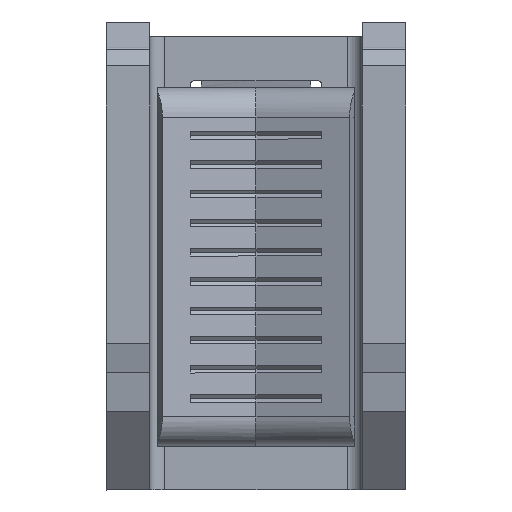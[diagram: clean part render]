
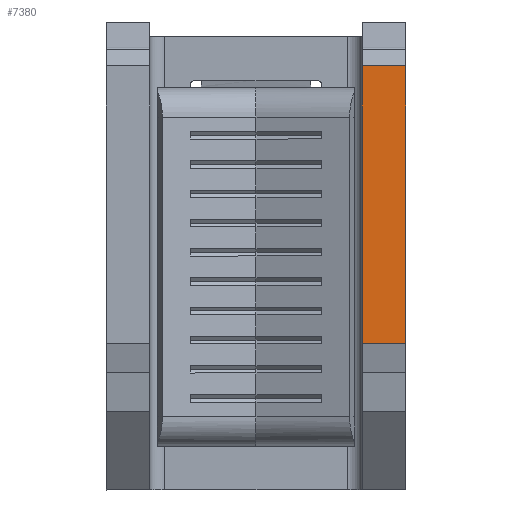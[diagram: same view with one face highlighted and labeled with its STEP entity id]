
A CAD part, front view. The second image highlights one B-rep face of the part: STEP entity #7380.
In plain terms, the highlighted planar face has unit normal (0, -1, 0).
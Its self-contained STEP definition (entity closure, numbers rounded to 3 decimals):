
#138 = VERTEX_POINT ( 'NONE', #9301 ) ;
#388 = LINE ( 'NONE', #4895, #12455 ) ;
#768 = VERTEX_POINT ( 'NONE', #1489 ) ;
#1301 = VERTEX_POINT ( 'NONE', #2354 ) ;
#1365 = VERTEX_POINT ( 'NONE', #4451 ) ;
#1489 = CARTESIAN_POINT ( 'NONE',  ( 10.898, 11.213, 18. ) ) ;
#1803 = AXIS2_PLACEMENT_3D ( 'NONE', #4732, #2538, #13019 ) ;
#2354 = CARTESIAN_POINT ( 'NONE',  ( 7.898, 11.213, -1. ) ) ;
#2538 = DIRECTION ( 'NONE',  ( 0., -1., 0. ) ) ;
#2755 = EDGE_LOOP ( 'NONE', ( #3962, #3828, #6048, #12012 ) ) ;
#2946 = LINE ( 'NONE', #12917, #9811 ) ;
#3275 = CARTESIAN_POINT ( 'NONE',  ( 7.898, 11.213, 21. ) ) ;
#3828 = ORIENTED_EDGE ( 'NONE', *, *, #8314, .T. ) ;
#3962 = ORIENTED_EDGE ( 'NONE', *, *, #12211, .T. ) ;
#4451 = CARTESIAN_POINT ( 'NONE',  ( 7.898, 11.213, 18. ) ) ;
#4732 = CARTESIAN_POINT ( 'NONE',  ( 10.898, 11.213, 21. ) ) ;
#4895 = CARTESIAN_POINT ( 'NONE',  ( 10.898, 11.213, -1. ) ) ;
#5030 = LINE ( 'NONE', #5741, #11246 ) ;
#5202 = EDGE_CURVE ( 'NONE', #1365, #1301, #10145, .T. ) ;
#5741 = CARTESIAN_POINT ( 'NONE',  ( 10.898, 11.213, 21. ) ) ;
#6048 = ORIENTED_EDGE ( 'NONE', *, *, #6487, .T. ) ;
#6487 = EDGE_CURVE ( 'NONE', #768, #1365, #2946, .T. ) ;
#6786 = DIRECTION ( 'NONE',  ( 0., 0., 1. ) ) ;
#6870 = VECTOR ( 'NONE', #10616, 1000. ) ;
#7380 = ADVANCED_FACE ( 'NONE', ( #11423 ), #10982, .T. ) ;
#7824 = DIRECTION ( 'NONE',  ( -1., 0., 0. ) ) ;
#8314 = EDGE_CURVE ( 'NONE', #138, #768, #5030, .T. ) ;
#9301 = CARTESIAN_POINT ( 'NONE',  ( 10.898, 11.213, -1. ) ) ;
#9811 = VECTOR ( 'NONE', #7824, 1000. ) ;
#10145 = LINE ( 'NONE', #3275, #6870 ) ;
#10616 = DIRECTION ( 'NONE',  ( 0., 0., -1. ) ) ;
#10982 = PLANE ( 'NONE',  #1803 ) ;
#11246 = VECTOR ( 'NONE', #6786, 1000. ) ;
#11423 = FACE_OUTER_BOUND ( 'NONE', #2755, .T. ) ;
#12012 = ORIENTED_EDGE ( 'NONE', *, *, #5202, .T. ) ;
#12211 = EDGE_CURVE ( 'NONE', #1301, #138, #388, .T. ) ;
#12232 = DIRECTION ( 'NONE',  ( 1., 0., 0. ) ) ;
#12455 = VECTOR ( 'NONE', #12232, 1000. ) ;
#12917 = CARTESIAN_POINT ( 'NONE',  ( 10.898, 11.213, 18. ) ) ;
#13019 = DIRECTION ( 'NONE',  ( 0., 0., -1. ) ) ;
